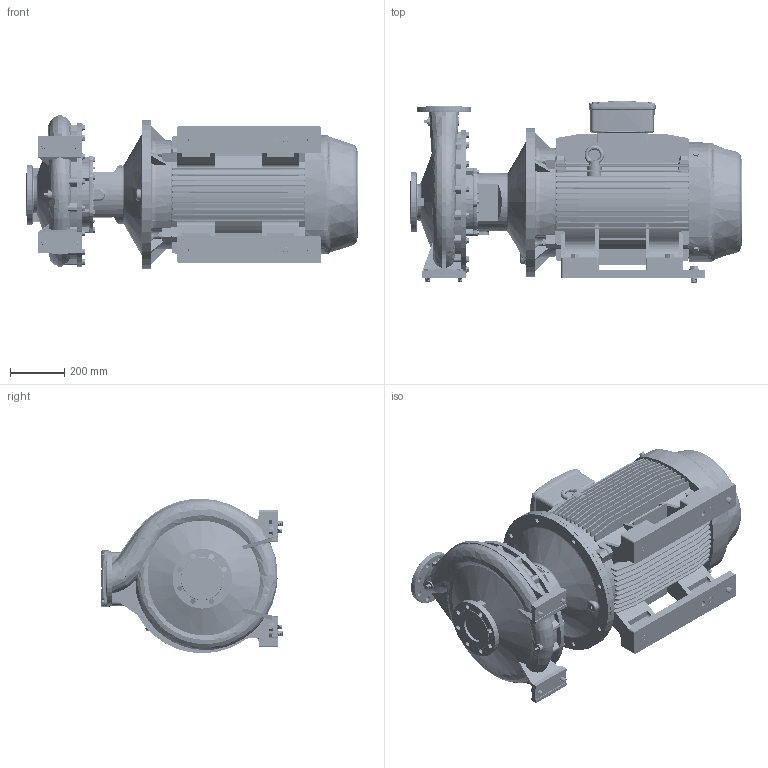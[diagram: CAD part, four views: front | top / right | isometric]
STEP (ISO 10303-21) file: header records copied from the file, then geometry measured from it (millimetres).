
FILE_DESCRIPTION (( 'STEP AP214' ), '1' );
FILE_NAME ('GSD4 80-400_55_(250SM)_W21.STEP', '2026-07-01T06:00:11', ( '' ), ( '' ), 'SwSTEP 2.0', 'SolidWorks 2024', '' );
FILE_SCHEMA (( 'AUTOMOTIVE_DESIGN' ));
Length unit declared in the file: millimetre
Products named in the file (11): Parametric bolt and washer_SFT-A353B; 80-400-250S_M_ﾃﾞﾌｫﾙﾄ; Parametric bolt and washer_SFT-A417B; 250S_M4P IE3_W21T_B35; Parametric bolt_SFT-A417B; GSD4 80-400_55_(250SM)_W21; Parametric bolt_SFT-A353B; 100x30 - CGSDA-5291; A407B Bolt_407; Parametric Flat Washer_M20; Parametric Flat Washer_M16
Assembly tree (20 placements, depth 3):
  GSD4 80-400_55_(250SM)_W21
    80-400-250S_M_ﾃﾞﾌｫﾙﾄ
    250S_M4P IE3_W21T_B35
    100x30 - CGSDA-5291  x2
    Parametric bolt and washer_SFT-A353B  x4
      Parametric bolt_SFT-A353B
      Parametric Flat Washer_M16
    Parametric bolt and washer_SFT-A417B  x4
      Parametric bolt_SFT-A417B
      Parametric Flat Washer_M20
    A407B Bolt_407  x2
    Parametric Flat Washer_M20  x2
Bounding box: 1225.5 x 670 x 570.53 mm (x, y, z)
Volume: 156424620 mm3; surface area: 5912005.6 mm2
Topology: 33 solids, 38 shells, 4483 faces, 11830 edges, 7548 vertices
Faces by surface type: plane 1749, cylinder 1538, cone 531, torus 335, bspline 312, sphere 18
Entity records: 184978 total; most frequent: CARTESIAN_POINT 91526, ORIENTED_EDGE 20590, DIRECTION 18389, EDGE_CURVE 10295, AXIS2_PLACEMENT_3D 6784, VERTEX_POINT 6557, LINE 4821, VECTOR 4821
